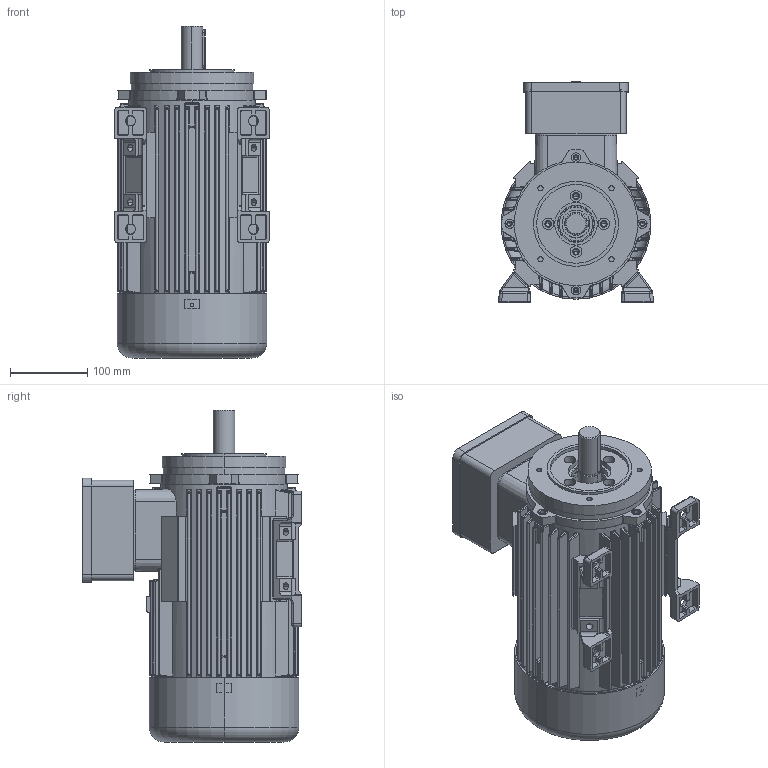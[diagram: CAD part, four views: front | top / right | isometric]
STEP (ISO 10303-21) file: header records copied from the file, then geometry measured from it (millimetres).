
FILE_DESCRIPTION (( 'STEP AP214' ), '1' );
FILE_NAME ('20.18365-F 7AZ 100 B34 small STANDK.STEP', '2018-07-18T09:44:23', ( '' ), ( '' ), 'SwSTEP 2.0', 'SolidWorks 2018', '' );
FILE_SCHEMA (( 'AUTOMOTIVE_DESIGN' ));
Length unit declared in the file: millimetre
Products named in the file (1): 20.18365-F 7AZ 100 B34 small STANDK
Bounding box: 199.97 x 284.67 x 430 mm (x, y, z)
Volume: 3631022.5 mm3; surface area: 1081619.8 mm2
Topology: 16 solids, 16 shells, 2387 faces, 5913 edges, 3494 vertices
Faces by surface type: cylinder 855, bspline 698, plane 601, cone 126, torus 81, sphere 26
Entity records: 119512 total; most frequent: CARTESIAN_POINT 43527, ORIENTED_EDGE 11450, DIRECTION 9412, EDGE_CURVE 5725, AXIS2_PLACEMENT_3D 3646, VERTEX_POINT 3490, EDGE_LOOP 2611, ADVANCED_FACE 2387
